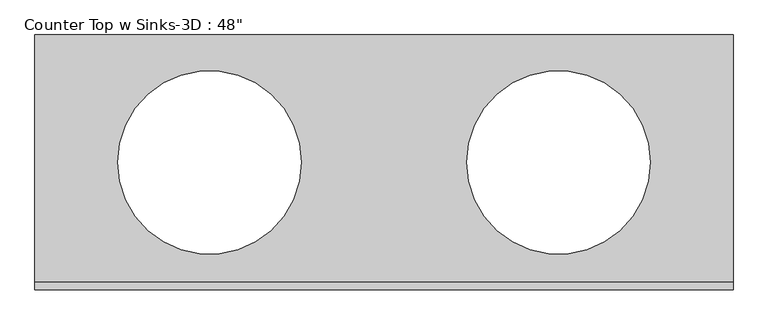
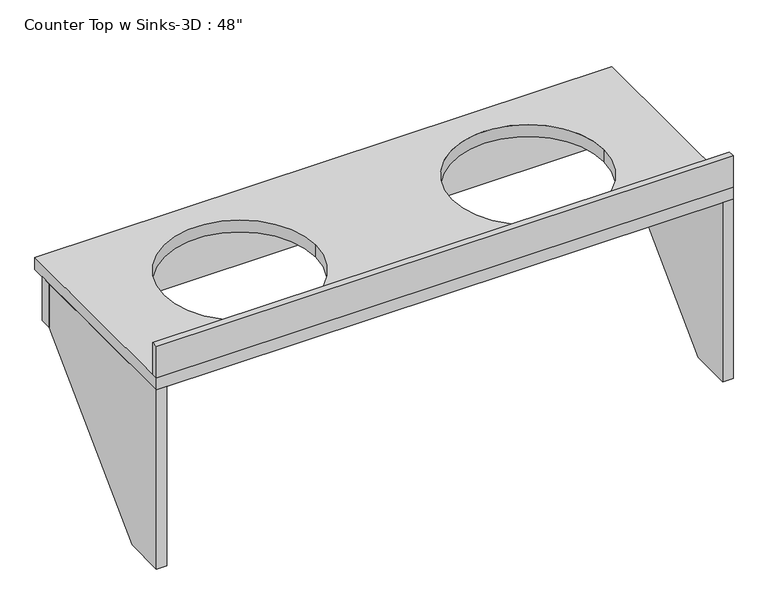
"""IFC4 building model written with IfcOpenShell, lengths in millimetres: furniture geometry."""

from ifc_helpers import new_model, si_unit, point, frame, frame_2d, origin, place, context, project, spatial, polyline, circle_curve, trimmed, segment, composite_curve, outline, extrude, source, transform, mapped, element, save


def furniture_9143c602(model_context):
    return source(origin(), model_context, "Body", "SweptSolid", [
        extrude(outline(polyline([(152.4, 825.5), (711.2, 825.5), (711.2, 685.8), (279.4, 254.0), (152.4, 254.0), (152.4, 825.5)])), frame((-1116.1103038, 0.0, 0.0), z_axis=(1.0, 0.0, 0.0), x_axis=(0.0, 1.0, 0.0)), (0.0, 0.0, 1.0), 31.75),
        extrude(outline(polyline([(152.4, 825.5), (711.2, 825.5), (711.2, 685.8), (279.4, 254.0), (152.4, 254.0), (152.4, 825.5)])), frame((591.8563449, 0.0, 0.0), z_axis=(1.0, 0.0, 0.0), x_axis=(0.0, 1.0, 0.0)), (0.0, 0.0, 1.0), 31.75),
        extrude(outline(polyline([(-1116.1103038, 711.2), (-1116.1103038, 749.3), (623.6063449, 749.3), (623.6063449, 711.2), (-1116.1103038, 711.2)])), frame((0.0, 0.0, 685.8), z_axis=(0.0, 0.0, 1.0), x_axis=(1.0, 0.0, 0.0)), (0.0, 0.0, 1.0), 139.7),
        extrude(outline(polyline([(623.6063449, 152.4), (-1116.1103038, 152.4), (-1116.1103038, 171.45), (623.6063449, 171.45), (623.6063449, 152.4)])), frame((0.0, 0.0, 863.6), z_axis=(0.0, 0.0, 1.0), x_axis=(1.0, 0.0, 0.0)), (0.0, 0.0, 1.0), 101.6),
        extrude(outline(polyline([(623.6063449, 152.4), (-1116.1103038, 152.4), (-1116.1103038, 787.4), (623.6063449, 787.4), (623.6063449, 152.4)]), holes=[composite_curve([segment(trimmed(circle_curve(frame_2d((-681.1811416, 469.9)), 228.6), [point((-909.7811416, 469.9))], [point((-452.5811416, 469.9))], True, "CARTESIAN"), True, "CONTINUOUS"), segment(trimmed(circle_curve(frame_2d((-681.1811416, 469.9)), 228.6), [point((-452.5811416, 469.9))], [point((-909.7811416, 469.9))], True, "CARTESIAN"), True, "CONTINUOUS")], self_intersect=False), composite_curve([segment(trimmed(circle_curve(frame_2d((188.6771827, 469.9)), 228.6), [point((-39.9228173, 469.9))], [point((417.2771827, 469.9))], True, "CARTESIAN"), True, "CONTINUOUS"), segment(trimmed(circle_curve(frame_2d((188.6771827, 469.9)), 228.6), [point((417.2771827, 469.9))], [point((-39.9228173, 469.9))], True, "CARTESIAN"), True, "CONTINUOUS")], self_intersect=False)]), frame((0.0, 0.0, 825.5), z_axis=(0.0, 0.0, 1.0), x_axis=(1.0, 0.0, 0.0)), (0.0, 0.0, 1.0), 38.1),
    ])


if __name__ == "__main__":
    model = new_model("IFC4")
    model_context = context("Model", 3, world=origin())
    ifc_project = project(units=[si_unit("LENGTHUNIT", "METRE", prefix="MILLI")], contexts=[model_context])
    site = spatial("IfcSite", under=ifc_project)
    building = spatial("IfcBuilding", under=site)
    placement = place(None, origin())
    furniture_shape = furniture_9143c602(model_context)
    element("IfcFurniture", 1, ObjectType="Counter Top w Sinks-3D : 48\"", at=placement, inside=building, context=model_context, shape_type="MappedRepresentation", body=[
        mapped(furniture_shape, transform((0.0, 0.0, 0.0), x_axis=(1.0, 0.0, 0.0), y_axis=(0.0, 1.0, 0.0), z_axis=(0.0, 0.0, 1.0))),
    ])
    save(model, "model.ifc")
